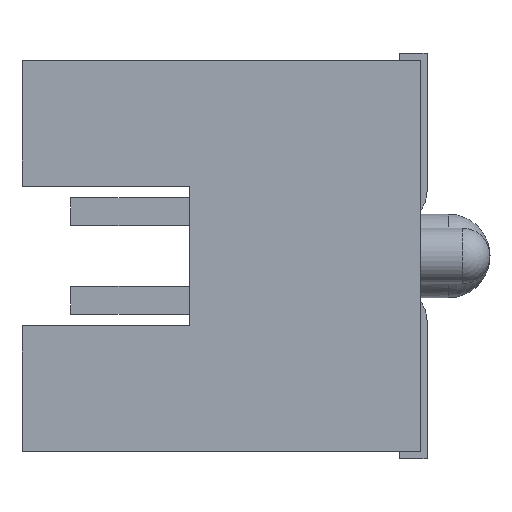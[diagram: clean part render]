
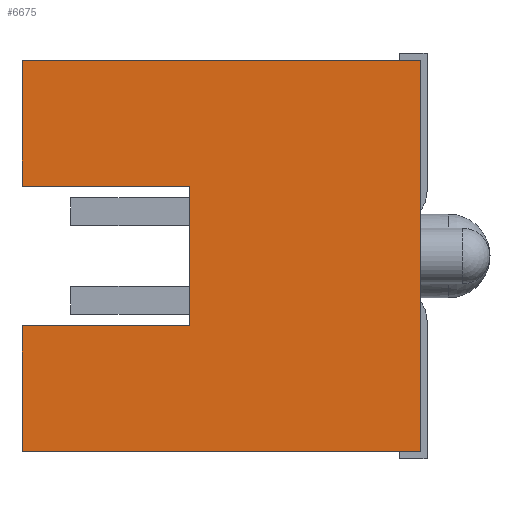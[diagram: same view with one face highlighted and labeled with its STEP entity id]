
A CAD part, left-side view. The second image highlights one B-rep face of the part: STEP entity #6675.
In plain terms, the highlighted planar face has unit normal (-1, 0, 0).
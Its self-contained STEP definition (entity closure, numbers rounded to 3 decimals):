
#563 = LINE ( 'NONE', #7107, #3648 ) ;
#826 = LINE ( 'NONE', #9298, #11430 ) ;
#931 = DIRECTION ( 'NONE',  ( 1., 0., 0. ) ) ;
#935 = ORIENTED_EDGE ( 'NONE', *, *, #4494, .T. ) ;
#1112 = EDGE_LOOP ( 'NONE', ( #1741, #5151, #6317, #8701, #11576, #6276, #935, #4104 ) ) ;
#1194 = CARTESIAN_POINT ( 'NONE',  ( -5.229, 0.646, 1. ) ) ;
#1264 = DIRECTION ( 'NONE',  ( 0., 1., 0. ) ) ;
#1741 = ORIENTED_EDGE ( 'NONE', *, *, #8730, .F. ) ;
#1909 = LINE ( 'NONE', #3783, #11826 ) ;
#2059 = DIRECTION ( 'NONE',  ( 0., 1., 0. ) ) ;
#2148 = LINE ( 'NONE', #11490, #8631 ) ;
#2158 = DIRECTION ( 'NONE',  ( 0., 1., 0. ) ) ;
#2622 = EDGE_CURVE ( 'NONE', #6143, #6148, #10581, .T. ) ;
#2755 = CARTESIAN_POINT ( 'NONE',  ( -5.229, 0.646, 1. ) ) ;
#2838 = DIRECTION ( 'NONE',  ( 0., 0., -1. ) ) ;
#2983 = DIRECTION ( 'NONE',  ( 0., 0., 1. ) ) ;
#3268 = VERTEX_POINT ( 'NONE', #4341 ) ;
#3318 = DIRECTION ( 'NONE',  ( 0., 0., -1. ) ) ;
#3352 = EDGE_CURVE ( 'NONE', #6143, #3268, #4576, .T. ) ;
#3577 = LINE ( 'NONE', #7251, #4771 ) ;
#3637 = DIRECTION ( 'NONE',  ( 0., 0., -1. ) ) ;
#3644 = VERTEX_POINT ( 'NONE', #2755 ) ;
#3648 = VECTOR ( 'NONE', #3318, 1000. ) ;
#3783 = CARTESIAN_POINT ( 'NONE',  ( -5.229, 3.046, -2.8 ) ) ;
#3802 = CARTESIAN_POINT ( 'NONE',  ( -5.229, 3.046, 2.8 ) ) ;
#4104 = ORIENTED_EDGE ( 'NONE', *, *, #11468, .T. ) ;
#4185 = VECTOR ( 'NONE', #2838, 1000. ) ;
#4341 = CARTESIAN_POINT ( 'NONE',  ( -5.229, -2.654, -2.8 ) ) ;
#4494 = EDGE_CURVE ( 'NONE', #11329, #8651, #3577, .T. ) ;
#4566 = DIRECTION ( 'NONE',  ( 0., 1., 0. ) ) ;
#4576 = LINE ( 'NONE', #8442, #4185 ) ;
#4731 = CARTESIAN_POINT ( 'NONE',  ( -5.229, 3.046, 2.8 ) ) ;
#4771 = VECTOR ( 'NONE', #4566, 1000. ) ;
#4846 = EDGE_CURVE ( 'NONE', #3644, #9993, #7169, .T. ) ;
#5151 = ORIENTED_EDGE ( 'NONE', *, *, #3352, .F. ) ;
#5335 = CARTESIAN_POINT ( 'NONE',  ( -5.229, 3.046, 1. ) ) ;
#5667 = FACE_OUTER_BOUND ( 'NONE', #1112, .T. ) ;
#6143 = VERTEX_POINT ( 'NONE', #10103 ) ;
#6148 = VERTEX_POINT ( 'NONE', #11155 ) ;
#6276 = ORIENTED_EDGE ( 'NONE', *, *, #7616, .T. ) ;
#6317 = ORIENTED_EDGE ( 'NONE', *, *, #2622, .T. ) ;
#6459 = CARTESIAN_POINT ( 'NONE',  ( -5.229, 3.046, -1. ) ) ;
#6675 = ADVANCED_FACE ( 'NONE', ( #5667 ), #10327, .F. ) ;
#7107 = CARTESIAN_POINT ( 'NONE',  ( -5.229, 0.646, -1. ) ) ;
#7169 = LINE ( 'NONE', #1194, #8188 ) ;
#7251 = CARTESIAN_POINT ( 'NONE',  ( -5.229, 0.646, -1. ) ) ;
#7616 = EDGE_CURVE ( 'NONE', #3644, #11329, #563, .T. ) ;
#8181 = AXIS2_PLACEMENT_3D ( 'NONE', #4731, #931, #2983 ) ;
#8188 = VECTOR ( 'NONE', #1264, 1000. ) ;
#8368 = CARTESIAN_POINT ( 'NONE',  ( -5.229, 0.646, -1. ) ) ;
#8442 = CARTESIAN_POINT ( 'NONE',  ( -5.229, -2.654, 2.8 ) ) ;
#8631 = VECTOR ( 'NONE', #11546, 1000. ) ;
#8651 = VERTEX_POINT ( 'NONE', #6459 ) ;
#8701 = ORIENTED_EDGE ( 'NONE', *, *, #11724, .T. ) ;
#8730 = EDGE_CURVE ( 'NONE', #3268, #8759, #1909, .T. ) ;
#8759 = VERTEX_POINT ( 'NONE', #9448 ) ;
#9298 = CARTESIAN_POINT ( 'NONE',  ( -5.229, 3.046, 2.8 ) ) ;
#9448 = CARTESIAN_POINT ( 'NONE',  ( -5.229, 3.046, -2.8 ) ) ;
#9993 = VERTEX_POINT ( 'NONE', #5335 ) ;
#10103 = CARTESIAN_POINT ( 'NONE',  ( -5.229, -2.654, 2.8 ) ) ;
#10327 = PLANE ( 'NONE',  #8181 ) ;
#10581 = LINE ( 'NONE', #3802, #12192 ) ;
#11155 = CARTESIAN_POINT ( 'NONE',  ( -5.229, 3.046, 2.8 ) ) ;
#11329 = VERTEX_POINT ( 'NONE', #8368 ) ;
#11430 = VECTOR ( 'NONE', #3637, 1000. ) ;
#11468 = EDGE_CURVE ( 'NONE', #8651, #8759, #2148, .T. ) ;
#11490 = CARTESIAN_POINT ( 'NONE',  ( -5.229, 3.046, 2.8 ) ) ;
#11546 = DIRECTION ( 'NONE',  ( 0., 0., -1. ) ) ;
#11576 = ORIENTED_EDGE ( 'NONE', *, *, #4846, .F. ) ;
#11724 = EDGE_CURVE ( 'NONE', #6148, #9993, #826, .T. ) ;
#11826 = VECTOR ( 'NONE', #2158, 1000. ) ;
#12192 = VECTOR ( 'NONE', #2059, 1000. ) ;
